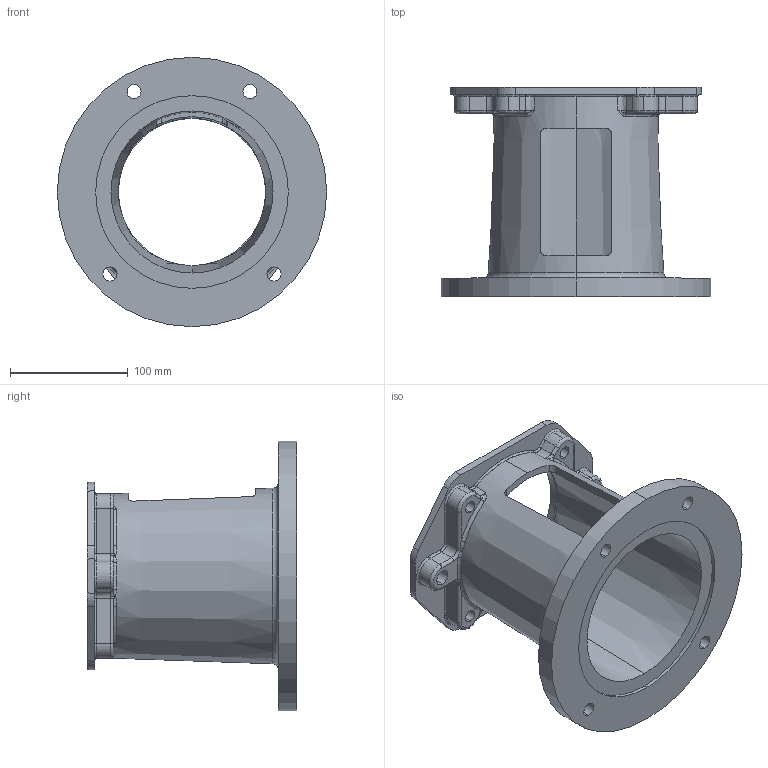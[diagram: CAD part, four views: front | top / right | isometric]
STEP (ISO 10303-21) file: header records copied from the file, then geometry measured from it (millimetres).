
FILE_DESCRIPTION (( 'STEP AP203' ), '1' );
FILE_NAME ('E64470125M.STEP', '2014-11-03T18:56:34', ( '' ), ( '' ), 'SwSTEP 2.0', 'SolidWorks 2014', '' );
FILE_SCHEMA (( 'CONFIG_CONTROL_DESIGN' ));
Length unit declared in the file: inch
Products named in the file (1): E64470125M
Bounding box: 228.6 x 177.8 x 228.6 mm (x, y, z)
Volume: 941446.3 mm3; surface area: 233949.9 mm2
Topology: 1 solids, 1 shells, 238 faces, 615 edges, 368 vertices
Faces by surface type: cylinder 74, torus 57, bspline 52, plane 35, sphere 16, cone 4
Entity records: 9309 total; most frequent: CARTESIAN_POINT 3740, ORIENTED_EDGE 1206, DIRECTION 1134, EDGE_CURVE 603, AXIS2_PLACEMENT_3D 496, VERTEX_POINT 368, CIRCLE 309, EDGE_LOOP 263
